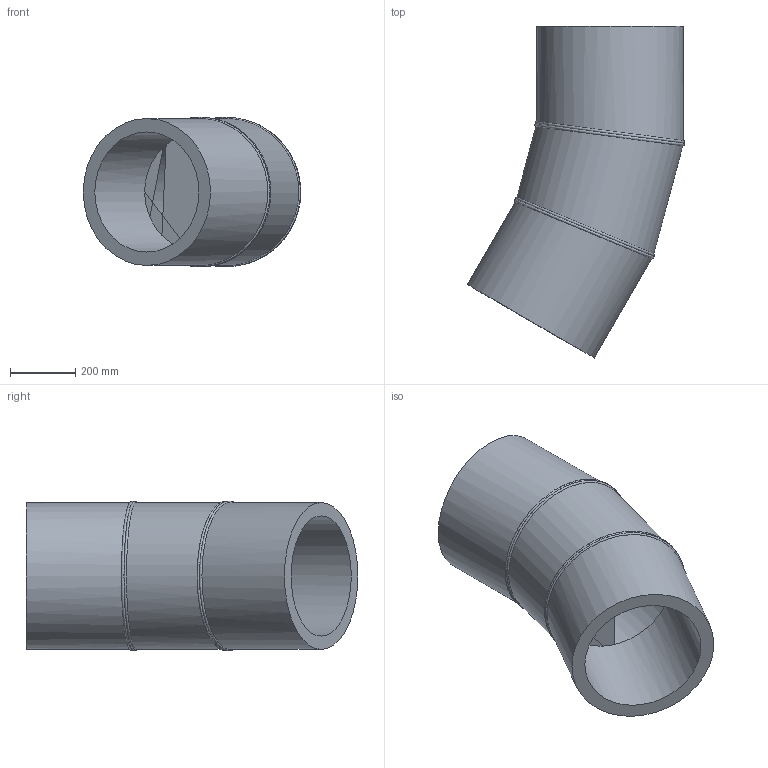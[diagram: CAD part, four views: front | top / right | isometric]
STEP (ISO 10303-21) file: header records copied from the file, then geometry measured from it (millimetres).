
FILE_DESCRIPTION(/* description */ ('Unknown'),/* implementation_level */ '2;1');
FILE_NAME(/* name */ 'Curva 30° a settore DE450 SDR11',/* time_stamp */ '2022-07-26T08:53:06+02:00',/* author */ ('Unknown'),/* organization */ ('Unknown'),/* preprocessor_version */ 'ST-DEVELOPER v18.102',/* originating_system */ 'Solid Edge',/* authorisation */ 'Unknown');
FILE_SCHEMA (('AUTOMOTIVE_DESIGN {1 0 10303 214 3 1 1}'));
Length unit declared in the file: millimetre
Products named in the file (3): Curva 30° a settore DE450 SDR11; Tubo x Gomito 30° DE450 SDR11 - 1; Tubo x Gomito 30° DE450 SDR11 - 2
Assembly tree (3 placements, depth 2):
  Curva 30° a settore DE450 SDR11
    Tubo x Gomito 30° DE450 SDR11 - 1  x2
    Tubo x Gomito 30° DE450 SDR11 - 2
Bounding box: 666.11 x 1016.63 x 458 mm (x, y, z)
Volume: 50532409.5 mm3; surface area: 2807744.8 mm2
Topology: 3 solids, 3 shells, 24 faces, 51 edges, 33 vertices
Faces by surface type: cylinder 14, plane 6, bspline 4
Full cylindrical faces by diameter (mm): 368.2 x3, 450 x3
Entity records: 2406 total; most frequent: CARTESIAN_POINT 2011, DIRECTION 70, ORIENTED_EDGE 52, AXIS2_PLACEMENT_3D 35, EDGE_LOOP 28, FACE_BOUND 28, EDGE_CURVE 26, VERTEX_POINT 20
